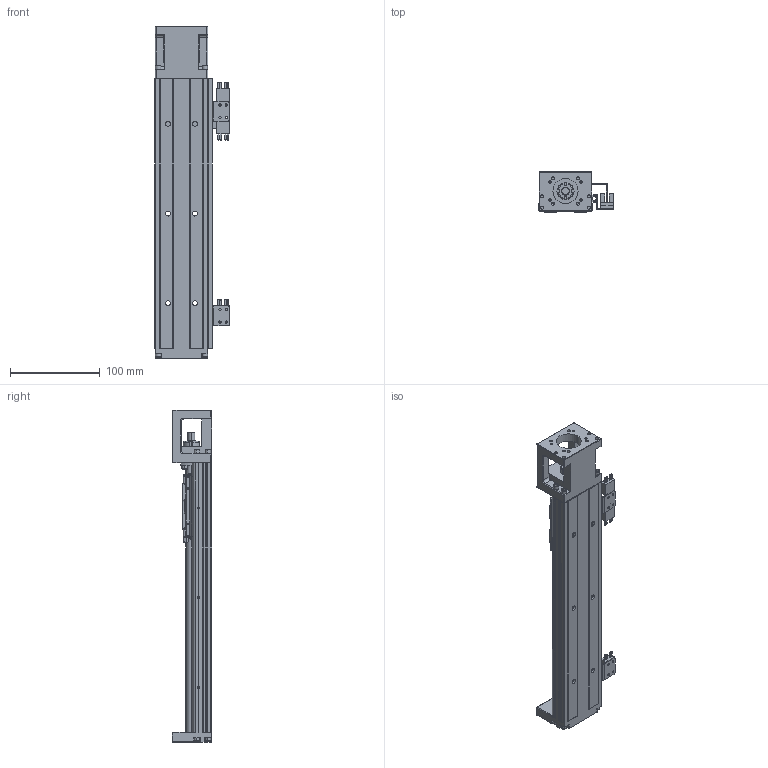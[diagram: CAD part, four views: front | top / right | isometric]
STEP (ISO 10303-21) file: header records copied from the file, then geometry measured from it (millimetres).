
FILE_DESCRIPTION (( 'STEP AP214' ), '1' );
FILE_NAME ('SFKK60-300A1-F0.STEP', '2023-02-17T01:37:46', ( '微软用户' ), ( '微软中国' ), 'SwSTEP 2.0', 'SolidWorks 2018', '' );
FILE_SCHEMA (( 'AUTOMOTIVE_DESIGN' ));
Length unit declared in the file: millimetre
Products named in the file (9): 不带盖挡光片：KK-60-S2-D2; SFKK60-300A1-F0; SX674嫖萇羲壽; SFKK60-A1; 开关固定座：KK-674S2-F; 蚐郲; 极限轨道与开关固定座组合_300; SFKK60-LR 憤癹寢耋_300; SFKK60-F0_300
Assembly tree (11 placements, depth 3):
  SFKK60-300A1-F0
    SFKK60-F0_300
    SFKK60-A1
    蚐郲
    极限轨道与开关固定座组合_300
      SFKK60-LR 憤癹寢耋_300
      开关固定座：KK-674S2-F  x2
    SX674嫖萇羲壽  x3
    不带盖挡光片：KK-60-S2-D2
Bounding box: 83.4 x 44.5 x 370 mm (x, y, z)
Volume: 398886.6 mm3; surface area: 150066.1 mm2
Topology: 27 solids, 27 shells, 1484 faces, 3885 edges, 2483 vertices
Faces by surface type: plane 765, cylinder 552, cone 96, torus 57, sphere 10, bspline 4
Entity records: 54662 total; most frequent: CARTESIAN_POINT 10160, DIRECTION 7336, ORIENTED_EDGE 7066, EDGE_CURVE 3533, AXIS2_PLACEMENT_3D 2565, VERTEX_POINT 2285, LINE 2206, VECTOR 2206
